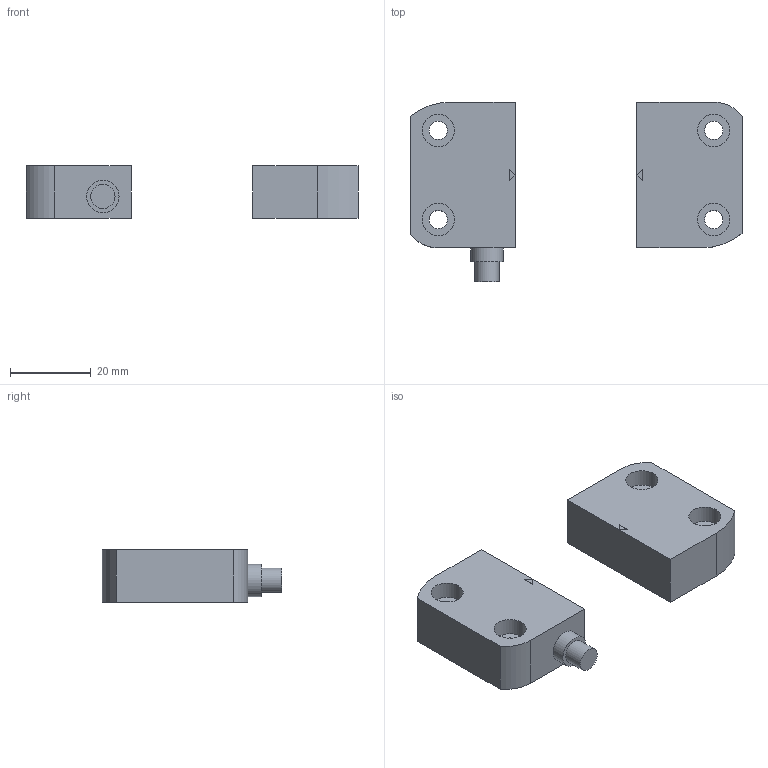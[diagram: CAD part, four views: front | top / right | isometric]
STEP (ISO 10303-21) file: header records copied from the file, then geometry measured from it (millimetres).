
FILE_DESCRIPTION( ( 'STEP AP203' ), '1' );
FILE_NAME( 'p:/temp/worker_12/temp/app_40_02018091411051997224909192d056f_000000_00_00_000000/format_6/MN203S.stp', '2018-09-14T09:05:28', ( '' ), ( '' ), ' ', 'PARTsolutions', ' ' );
FILE_SCHEMA( ( 'CONFIG_CONTROL_DESIGN' ) );
Length unit declared in the file: millimetre
Products named in the file (3): MN203S; _MN200Sp1; _MN200Sp2
Assembly tree (2 placements, depth 2):
  MN203S
    _MN200Sp1
    _MN200Sp2
Bounding box: 82 x 44.4 x 13 mm (x, y, z)
Volume: 22748.6 mm3; surface area: 7739.6 mm2
Topology: 2 solids, 2 shells, 40 faces, 85 edges, 57 vertices
Faces by surface type: plane 26, cylinder 14
Full cylindrical faces by diameter (mm): 4.5 x4, 6 x1, 8 x5
Entity records: 1150 total; most frequent: DIRECTION 188, CARTESIAN_POINT 173, ORIENTED_EDGE 148, EDGE_CURVE 74, AXIS2_PLACEMENT_3D 71, EDGE_LOOP 66, VERTEX_POINT 56, FACE_OUTER_BOUND 50
